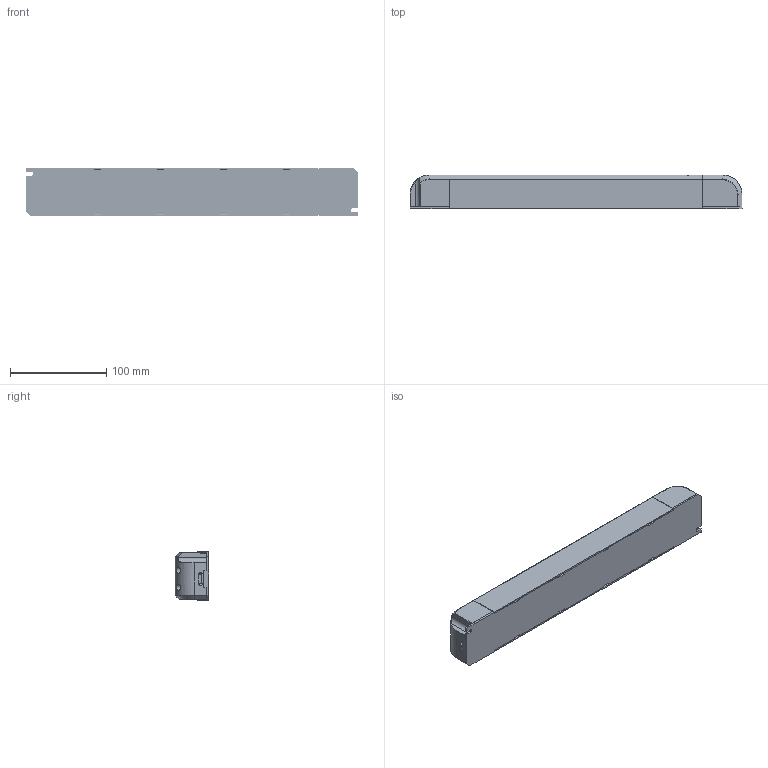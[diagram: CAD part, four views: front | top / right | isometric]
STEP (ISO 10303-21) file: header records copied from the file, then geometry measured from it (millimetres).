
FILE_DESCRIPTION((''),'2;1');
FILE_NAME('KT-049_EBB-66_ASM','2016-12-20T',('021898'),(''),'CREO PARAMETRIC BY PTC INC, 2014440','CREO PARAMETRIC BY PTC INC, 2014440','');
FILE_SCHEMA(('CONFIG_CONTROL_DESIGN'));
Products named in the file (280): KT-049-EBB-66SG_2; KT-049-EBB-66DG_2; BOARD_1_KT; J-10AI_1_KT; J21_1_KT_ASM; EXTRUDED-19920_KT; 665595696_KT_ASM; EXTRUDED-20292_KT; 665595568_KT_ASM; RS210_1_KT_ASM; CS210_1_KT_ASM; 5D08_2X10_1_KT; L12_1_KT_ASM; SOD_123_1_KT; DS53_1_KT_ASM; EXTRUDED-30530_KT; 665595952_KT_ASM; EXTRUDED-30902_KT; 665596080_KT_ASM; RS53D_1_KT_ASM; RES_SMT_0805_1_KT; RS53C_1_KT_ASM; RS53B_1_KT_ASM; RES_SMT_0805_KT; RS53A_1_KT_ASM; NS33_1_KT_ASM; J-7D5AI_1_KT; J43_1_KT_ASM; J-12D5AI_1_KT; J42_1_KT_ASM; J-12D5AI_KT; J23_1_KT_ASM; J-7D5AI_KT; J22_1_KT_ASM; J-10AI_KT; J41_1_KT_ASM; NS31_1_KT_ASM; NS23_1_KT_ASM; NS22_1_KT_ASM; NS21_1_KT_ASM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
Assembly tree (549 placements, depth 6):
  KT-049_EBB-66_ASM
    KT-049-EBB-66SG_2
    KT-049-EBB-66DG_2
    KT-049-PCB_ASM
      PCB_1_KT_ASM
        BOARD_1_KT
        J21_1_KT_ASM
          J-10AI_1_KT
        RS210_1_KT_ASM
          665595696_KT_ASM  x2
            EXTRUDED-19920_KT
          665595568_KT_ASM
            EXTRUDED-20292_KT
        CS210_1_KT_ASM
          665595696_KT_ASM  x2
            EXTRUDED-19920_KT
          665595568_KT_ASM
            EXTRUDED-20292_KT
        L12_1_KT_ASM
          5D08_2X10_1_KT
        DS53_1_KT_ASM
          SOD_123_1_KT
        RS53D_1_KT_ASM
          665595952_KT_ASM  x2
            EXTRUDED-30530_KT
          665596080_KT_ASM
            EXTRUDED-30902_KT
        RS53C_1_KT_ASM
          RES_SMT_0805_1_KT
        RS53B_1_KT_ASM
          665595952_KT_ASM  x2
            EXTRUDED-30530_KT
          665596080_KT_ASM
            EXTRUDED-30902_KT
        RS53A_1_KT_ASM
          RES_SMT_0805_KT
        NS33_1_KT_ASM
          RES_SMT_0805_KT
        J43_1_KT_ASM
          J-7D5AI_1_KT
        J42_1_KT_ASM
          J-12D5AI_1_KT
        J23_1_KT_ASM
          J-12D5AI_KT
        J22_1_KT_ASM
          J-7D5AI_KT
        J41_1_KT_ASM
          J-10AI_KT
        NS31_1_KT_ASM
          665595696_KT_ASM  x2
            EXTRUDED-19920_KT
          665595568_KT_ASM
            EXTRUDED-20292_KT
        NS23_1_KT_ASM
          665595696_KT_ASM  x2
            EXTRUDED-19920_KT
          665595568_KT_ASM
            EXTRUDED-20292_KT
        NS22_1_KT_ASM
          665595696_KT_ASM  x2
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Bounding box: 345.02 x 35 x 50.11 mm (x, y, z)
Volume: 188578.7 mm3; surface area: 208807.4 mm2
Topology: 360 solids, 363 shells, 7183 faces, 17578 edges, 11321 vertices
Faces by surface type: plane 4581, cylinder 1827, torus 572, bspline 70, cone 68, sphere 62, extrusion 3
Entity records: 157948 total; most frequent: CARTESIAN_POINT 38666, DIRECTION 25885, ORIENTED_EDGE 22744, EDGE_CURVE 11372, AXIS2_PLACEMENT_3D 9291, VECTOR 7303, LINE 7301, VERTEX_POINT 7301
